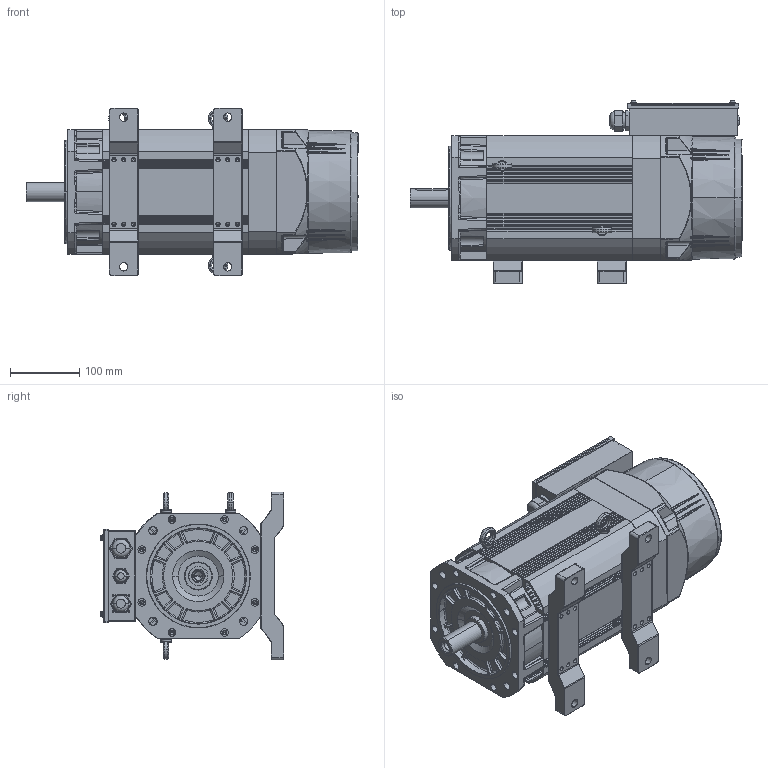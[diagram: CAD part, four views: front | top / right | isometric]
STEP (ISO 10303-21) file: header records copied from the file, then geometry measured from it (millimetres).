
FILE_DESCRIPTION (( 'STEP AP203' ), '1' );
FILE_NAME ('180S-B35-28J淕儂俋倛芞.STEP', '2021-07-27T04:54:25', ( '' ), ( '' ), 'SwSTEP 2.0', 'SolidWorks 2016', '' );
FILE_SCHEMA (( 'CONFIG_CONTROL_DESIGN' ));
Length unit declared in the file: millimetre
Products named in the file (26): cross recessed cheese head screws gb_GB_CROSS_SCREWS_TYPE2 M4X10-10  H type-N; spring lock washers--normal type gb_GB_FASTENER_WASHER_SW 4; M8X12裂遠; 200瑤脣ヶ堤盄諉盄碟; 180S-B35-28J淕儂俋倛芞; 180呿蹋瑞欶; 200 180菁褐樓詢; UVW隅砱梓ワ; cross recessed pan head screws gb_GB_CROSS_SCREWS_TYPE1 M3X12-12  H type-N; 晤鎢ん啣; 綴裔; cross recessed pan head screws gb_GB_CROSS_SCREWS_TYPE1 M4X5-5  H type-N; M20X1.5蹟杶; M16X1.5蹟杶; 180芧埽ヶ傷裔; 晤鎢ん橈埽翐; 200諉盄碟窒璃; 200諉盄碟裔躇猾菜; M24X1.5蹟杶; 200諉盄翐; 180L儂褲; 200风机过线圈; 晤鎢ん隅砱梓ワ; 180粣2.2kw; plain washers-n series-grade a gb_GB_FASTENER_WASHER_PWNA 4; 200諉盄碟裔
Assembly tree (44 placements, depth 3):
  180S-B35-28J淕儂俋倛芞
    180L儂褲
    180芧埽ヶ傷裔
    180粣2.2kw
    綴裔
    180呿蹋瑞欶
    200諉盄碟窒璃
      200瑤脣ヶ堤盄諉盄碟
      M24X1.5蹟杶
      200风机过线圈
      M20X1.5蹟杶
      M16X1.5蹟杶
      200諉盄翐
      晤鎢ん橈埽翐  x4
      晤鎢ん啣
      200諉盄碟裔躇猾菜
      200諉盄碟裔
      UVW隅砱梓ワ
      晤鎢ん隅砱梓ワ
      cross recessed cheese head screws gb_GB_CROSS_SCREWS_TYPE2 M4X10-10  H type-N  x4
      spring lock washers--normal type gb_GB_FASTENER_WASHER_SW 4  x4
      plain washers-n series-grade a gb_GB_FASTENER_WASHER_PWNA 4  x4
      cross recessed pan head screws gb_GB_CROSS_SCREWS_TYPE1 M3X12-12  H type-N  x4
      cross recessed pan head screws gb_GB_CROSS_SCREWS_TYPE1 M4X5-5  H type-N  x2
    M8X12裂遠  x3
    200 180菁褐樓詢  x2
Bounding box: 479 x 264.25 x 242 mm (x, y, z)
Volume: 3639584.7 mm3; surface area: 1234077 mm2
Topology: 43 solids, 43 shells, 3962 faces, 10008 edges, 6112 vertices
Faces by surface type: cylinder 1233, plane 919, bspline 861, cone 677, torus 200, sphere 72
Entity records: 130570 total; most frequent: CARTESIAN_POINT 46426, ORIENTED_EDGE 17550, DIRECTION 16681, EDGE_CURVE 8775, AXIS2_PLACEMENT_3D 6693, VERTEX_POINT 5410, CIRCLE 3979, EDGE_LOOP 3913
